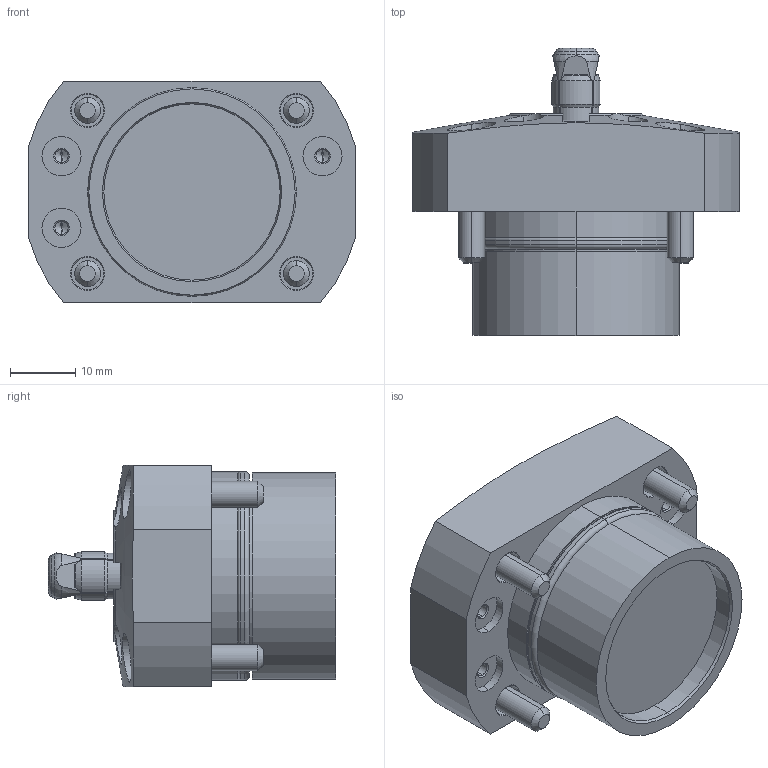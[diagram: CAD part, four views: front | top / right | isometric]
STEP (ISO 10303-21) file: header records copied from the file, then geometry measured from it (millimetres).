
FILE_DESCRIPTION (( 'STEP AP203' ), '1' );
FILE_NAME ('SFH1080_N.STEP', '2010-11-03T23:03:48', ( ' ' ), ( ' ' ), 'SwSTEP 2.0', 'SolidWorks 2010', '' );
FILE_SCHEMA (( 'CONFIG_CONTROL_DESIGN' ));
Length unit declared in the file: millimetre
Products named in the file (7): 6妏寠晅无倌_M3_10; 冇8_郫霓; SFH1080_N; SFH1080-N_套菁轤礁诎蔬晅; SFH1_钾堇轤O剌皋晅; 6妏寠晅无倌_M4_16; φ8_ｽﾘｰﾌﾞ-N
Assembly tree (12 placements, depth 2):
  SFH1080_N
    6妏寠晅无倌_M4_16  x4
    冇8_郫霓
    SFH1080-N_套菁轤礁诎蔬晅
    6妏寠晅无倌_M3_10  x4
    SFH1_钾堇轤O剌皋晅
    φ8_ｽﾘｰﾌﾞ-N
Bounding box: 50 x 44 x 34 mm (x, y, z)
Volume: 34806.9 mm3; surface area: 15376.1 mm2
Topology: 16 solids, 16 shells, 482 faces, 995 edges, 552 vertices
Faces by surface type: plane 187, cone 160, cylinder 118, torus 17
Entity records: 9855 total; most frequent: CARTESIAN_POINT 2344, DIRECTION 1466, ORIENTED_EDGE 1318, EDGE_CURVE 659, AXIS2_PLACEMENT_3D 614, VERTEX_POINT 402, EDGE_LOOP 333, CIRCLE 303
